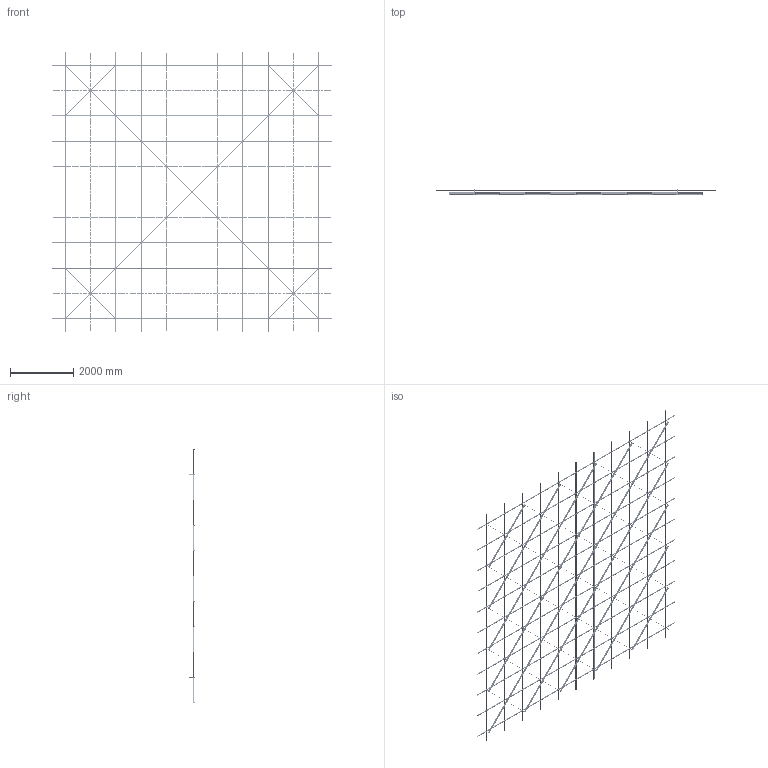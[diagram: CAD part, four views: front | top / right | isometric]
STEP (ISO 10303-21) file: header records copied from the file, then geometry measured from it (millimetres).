
FILE_DESCRIPTION (( 'STEP AP203' ), '1' );
FILE_NAME ('1 ìèíè ñ ïñ.step', '2025-11-25T12:31:23', ( '' ), ( '' ), 'SwSTEP 2.0', 'SolidWorks 2020', '' );
FILE_SCHEMA (( 'CONFIG_CONTROL_DESIGN' ));
Length unit declared in the file: millimetre
Products named in the file (5): Ñèñòåìà â çîíå 8000õ8000; SS.SEMA.2400 - Ñèìà-ïðîôèëü; SS.SEMA.2400 - Ñèìà-ïðîôèëü — îáðåçàí 1600; Var1; 1 ìèíè ñ ïñ
Assembly tree (90 placements, depth 3):
  1 ìèíè ñ ïñ
    Ñèñòåìà â çîíå 8000õ8000
      SS.SEMA.2400 - Ñèìà-ïðîôèëü  x66
      SS.SEMA.2400 - Ñèìà-ïðîôèëü — îáðåçàí 1600  x22
    Var1
Bounding box: 8800 x 158 x 8800 mm (x, y, z)
Volume: 63491889.3 mm3; surface area: 41023995.1 mm2
Topology: 432 solids, 432 shells, 18076 faces, 50228 edges, 33016 vertices
Faces by surface type: cylinder 12346, plane 5730
Entity records: 51455 total; most frequent: CARTESIAN_POINT 11378, DIRECTION 7458, ORIENTED_EDGE 7304, EDGE_CURVE 3652, AXIS2_PLACEMENT_3D 3480, VERTEX_POINT 2424, EDGE_LOOP 2082, ADVANCED_FACE 1920
